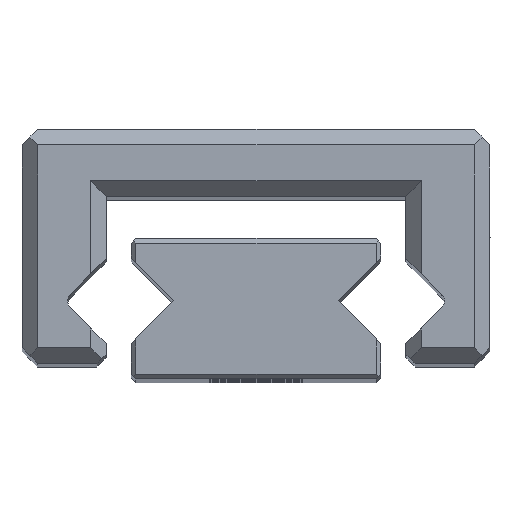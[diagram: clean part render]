
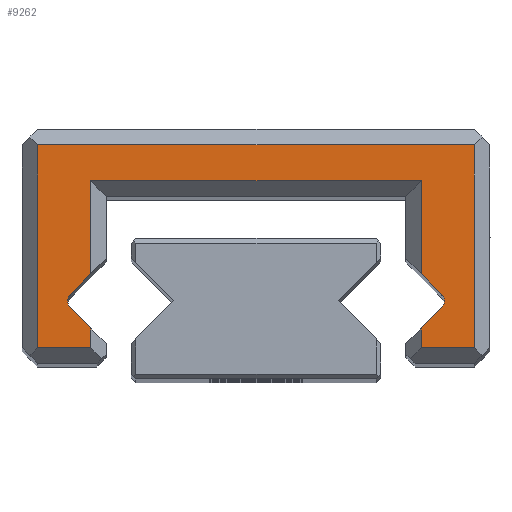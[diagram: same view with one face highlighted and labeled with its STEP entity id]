
A CAD part, top view. The second image highlights one B-rep face of the part: STEP entity #9262.
In plain terms, the highlighted planar face has unit normal (0, 0, 1).
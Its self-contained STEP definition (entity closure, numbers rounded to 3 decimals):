
#968 = VERTEX_POINT ( 'NONE', #5697 ) ;
#1019 = VERTEX_POINT ( 'NONE', #4120 ) ;
#1032 = VERTEX_POINT ( 'NONE', #4133 ) ;
#1033 = VERTEX_POINT ( 'NONE', #4134 ) ;
#1084 = VERTEX_POINT ( 'NONE', #4185 ) ;
#1126 = VERTEX_POINT ( 'NONE', #4227 ) ;
#1128 = VERTEX_POINT ( 'NONE', #4229 ) ;
#1203 = VERTEX_POINT ( 'NONE', #4304 ) ;
#1246 = VERTEX_POINT ( 'NONE', #4347 ) ;
#1289 = VERTEX_POINT ( 'NONE', #12167 ) ;
#1291 = VERTEX_POINT ( 'NONE', #12169 ) ;
#1748 = EDGE_CURVE ( 'NONE', #1019, #1128, #12265, .T. ) ;
#1756 = EDGE_CURVE ( 'NONE', #10087, #10006, #5362, .T. ) ;
#1780 = EDGE_CURVE ( 'NONE', #1084, #9954, #12371, .T. ) ;
#1788 = EDGE_CURVE ( 'NONE', #1291, #968, #12410, .T. ) ;
#1862 = EDGE_CURVE ( 'NONE', #1128, #1084, #5239, .T. ) ;
#1867 = EDGE_CURVE ( 'NONE', #10017, #10087, #10395, .T. ) ;
#2303 = ORIENTED_EDGE ( 'NONE', *, *, #10836, .T. ) ;
#2317 = ORIENTED_EDGE ( 'NONE', *, *, #1867, .T. ) ;
#2325 = ORIENTED_EDGE ( 'NONE', *, *, #10771, .T. ) ;
#2351 = ORIENTED_EDGE ( 'NONE', *, *, #10772, .T. ) ;
#2356 = ORIENTED_EDGE ( 'NONE', *, *, #10767, .T. ) ;
#2360 = ORIENTED_EDGE ( 'NONE', *, *, #10766, .T. ) ;
#2365 = ORIENTED_EDGE ( 'NONE', *, *, #1748, .T. ) ;
#2390 = ORIENTED_EDGE ( 'NONE', *, *, #10768, .T. ) ;
#2411 = ORIENTED_EDGE ( 'NONE', *, *, #10775, .T. ) ;
#2488 = ORIENTED_EDGE ( 'NONE', *, *, #10770, .T. ) ;
#2504 = ORIENTED_EDGE ( 'NONE', *, *, #1780, .T. ) ;
#2508 = ORIENTED_EDGE ( 'NONE', *, *, #10774, .T. ) ;
#2510 = ORIENTED_EDGE ( 'NONE', *, *, #1862, .T. ) ;
#2519 = ORIENTED_EDGE ( 'NONE', *, *, #1756, .T. ) ;
#2527 = ORIENTED_EDGE ( 'NONE', *, *, #10769, .T. ) ;
#2533 = ORIENTED_EDGE ( 'NONE', *, *, #10773, .T. ) ;
#2847 = EDGE_LOOP ( 'NONE', ( #2504, #2411, #2508, #2533, #2351, #2325, #2488, #2527, #2317, #2519, #2303, #13017, #2390, #2356, #2360, #2365, #2510 ) ) ;
#3797 = VECTOR ( 'NONE', #6288, 1000. ) ;
#3799 = VECTOR ( 'NONE', #6291, 1000. ) ;
#3800 = VECTOR ( 'NONE', #6294, 1000. ) ;
#3801 = VECTOR ( 'NONE', #6297, 1000. ) ;
#3802 = VECTOR ( 'NONE', #6300, 1000. ) ;
#3803 = VECTOR ( 'NONE', #6303, 1000. ) ;
#3804 = VECTOR ( 'NONE', #6306, 1000. ) ;
#3805 = VECTOR ( 'NONE', #6309, 1000. ) ;
#3806 = VECTOR ( 'NONE', #6312, 1000. ) ;
#3807 = VECTOR ( 'NONE', #6315, 1000. ) ;
#3854 = CIRCLE ( 'NONE', #3856, 0.3 ) ;
#3856 = AXIS2_PLACEMENT_3D ( 'NONE', #13495, #13496, #13497 ) ;
#4120 = CARTESIAN_POINT ( 'NONE',  ( 5.3, 2.868, 35. ) ) ;
#4133 = CARTESIAN_POINT ( 'NONE',  ( 5.3, 0.5, 35. ) ) ;
#4134 = CARTESIAN_POINT ( 'NONE',  ( -7., 7., 35. ) ) ;
#4185 = CARTESIAN_POINT ( 'NONE',  ( 5.953, 1.788, 35. ) ) ;
#4227 = CARTESIAN_POINT ( 'NONE',  ( 5.3, 5.85, 35. ) ) ;
#4229 = CARTESIAN_POINT ( 'NONE',  ( 5.953, 2.212, 35. ) ) ;
#4304 = CARTESIAN_POINT ( 'NONE',  ( -5.3, 0.5, 35. ) ) ;
#4347 = CARTESIAN_POINT ( 'NONE',  ( 7., 7., 35. ) ) ;
#4461 = CARTESIAN_POINT ( 'NONE',  ( -5.74, 2., 35. ) ) ;
#4464 = FACE_OUTER_BOUND ( 'NONE', #2847, .T. ) ;
#4465 = PLANE ( 'NONE',  #9515 ) ;
#4467 = DIRECTION ( 'NONE',  ( 0., 0., 1. ) ) ;
#4468 = DIRECTION ( 'NONE',  ( 1., 0., 0. ) ) ;
#5051 = VECTOR ( 'NONE', #12294, 1000. ) ;
#5052 = AXIS2_PLACEMENT_3D ( 'NONE', #12316, #12317, #12318 ) ;
#5232 = VECTOR ( 'NONE', #10412, 1000. ) ;
#5236 = AXIS2_PLACEMENT_3D ( 'NONE', #10397, #10398, #10399 ) ;
#5239 = CIRCLE ( 'NONE', #5236, 0.3 ) ;
#5321 = VECTOR ( 'NONE', #11872, 1000. ) ;
#5338 = VECTOR ( 'NONE', #12388, 1000. ) ;
#5362 = CIRCLE ( 'NONE', #5052, 0.3 ) ;
#5697 = CARTESIAN_POINT ( 'NONE',  ( -5.3, 2.868, 35. ) ) ;
#5744 = VERTEX_POINT ( 'NONE', #7129 ) ;
#6279 = LINE ( 'NONE', #6287, #3797 ) ;
#6287 = CARTESIAN_POINT ( 'NONE',  ( 5.3, 3.37, 35. ) ) ;
#6288 = DIRECTION ( 'NONE',  ( 0., -1., 0. ) ) ;
#6289 = LINE ( 'NONE', #6290, #3799 ) ;
#6290 = CARTESIAN_POINT ( 'NONE',  ( 4.8, 5.85, 35. ) ) ;
#6291 = DIRECTION ( 'NONE',  ( 1., 0., 0. ) ) ;
#6292 = LINE ( 'NONE', #6293, #3800 ) ;
#6293 = CARTESIAN_POINT ( 'NONE',  ( -5.3, 5.35, 35. ) ) ;
#6294 = DIRECTION ( 'NONE',  ( 0., 1., 0. ) ) ;
#6295 = LINE ( 'NONE', #6296, #3801 ) ;
#6296 = CARTESIAN_POINT ( 'NONE',  ( -5.3, 0.63, 35. ) ) ;
#6297 = DIRECTION ( 'NONE',  ( 0., 1., 0. ) ) ;
#6298 = LINE ( 'NONE', #6299, #3802 ) ;
#6299 = CARTESIAN_POINT ( 'NONE',  ( -5.1, 0.5, 35. ) ) ;
#6300 = DIRECTION ( 'NONE',  ( 1., 0., 0. ) ) ;
#6301 = LINE ( 'NONE', #6302, #3803 ) ;
#6302 = CARTESIAN_POINT ( 'NONE',  ( -7., 0.5, 35. ) ) ;
#6303 = DIRECTION ( 'NONE',  ( 0., -1., 0. ) ) ;
#6304 = LINE ( 'NONE', #6305, #3804 ) ;
#6305 = CARTESIAN_POINT ( 'NONE',  ( -7., 7., 35. ) ) ;
#6306 = DIRECTION ( 'NONE',  ( -1., 0., 0. ) ) ;
#6307 = LINE ( 'NONE', #6308, #3805 ) ;
#6308 = CARTESIAN_POINT ( 'NONE',  ( 7., 7., 35. ) ) ;
#6309 = DIRECTION ( 'NONE',  ( 0., 1., 0. ) ) ;
#6310 = LINE ( 'NONE', #6311, #3806 ) ;
#6311 = CARTESIAN_POINT ( 'NONE',  ( 7., 0.5, 35. ) ) ;
#6312 = DIRECTION ( 'NONE',  ( 1., 0., 0. ) ) ;
#6313 = LINE ( 'NONE', #6314, #3807 ) ;
#6314 = CARTESIAN_POINT ( 'NONE',  ( 5.3, 0.3, 35. ) ) ;
#6315 = DIRECTION ( 'NONE',  ( 0., -1., 0. ) ) ;
#7129 = CARTESIAN_POINT ( 'NONE',  ( 7., 0.5, 35. ) ) ;
#8150 = CARTESIAN_POINT ( 'NONE',  ( -7., 0.5, 35. ) ) ;
#8151 = CARTESIAN_POINT ( 'NONE',  ( 5.3, 1.132, 35. ) ) ;
#8203 = CARTESIAN_POINT ( 'NONE',  ( -6.04, 2., 35. ) ) ;
#8214 = CARTESIAN_POINT ( 'NONE',  ( -5.3, 1.132, 35. ) ) ;
#8284 = CARTESIAN_POINT ( 'NONE',  ( -5.953, 1.788, 35. ) ) ;
#9262 = ADVANCED_FACE ( 'NONE', ( #4464 ), #4465, .T. ) ;
#9515 = AXIS2_PLACEMENT_3D ( 'NONE', #4461, #4467, #4468 ) ;
#9953 = VERTEX_POINT ( 'NONE', #8150 ) ;
#9954 = VERTEX_POINT ( 'NONE', #8151 ) ;
#10006 = VERTEX_POINT ( 'NONE', #8203 ) ;
#10017 = VERTEX_POINT ( 'NONE', #8214 ) ;
#10087 = VERTEX_POINT ( 'NONE', #8284 ) ;
#10395 = LINE ( 'NONE', #10396, #5232 ) ;
#10396 = CARTESIAN_POINT ( 'NONE',  ( -4.8, 0.63, 35. ) ) ;
#10397 = CARTESIAN_POINT ( 'NONE',  ( 5.74, 2., 35. ) ) ;
#10398 = DIRECTION ( 'NONE',  ( 0., 0., -1. ) ) ;
#10399 = DIRECTION ( 'NONE',  ( -1., 0., 0. ) ) ;
#10412 = DIRECTION ( 'NONE',  ( -0.705, 0.709, 0. ) ) ;
#10766 = EDGE_CURVE ( 'NONE', #1126, #1019, #6279, .T. ) ;
#10767 = EDGE_CURVE ( 'NONE', #1289, #1126, #6289, .T. ) ;
#10768 = EDGE_CURVE ( 'NONE', #968, #1289, #6292, .T. ) ;
#10769 = EDGE_CURVE ( 'NONE', #1203, #10017, #6295, .T. ) ;
#10770 = EDGE_CURVE ( 'NONE', #9953, #1203, #6298, .T. ) ;
#10771 = EDGE_CURVE ( 'NONE', #1033, #9953, #6301, .T. ) ;
#10772 = EDGE_CURVE ( 'NONE', #1246, #1033, #6304, .T. ) ;
#10773 = EDGE_CURVE ( 'NONE', #5744, #1246, #6307, .T. ) ;
#10774 = EDGE_CURVE ( 'NONE', #1032, #5744, #6310, .T. ) ;
#10775 = EDGE_CURVE ( 'NONE', #9954, #1032, #6313, .T. ) ;
#10836 = EDGE_CURVE ( 'NONE', #10006, #1291, #3854, .T. ) ;
#11871 = CARTESIAN_POINT ( 'NONE',  ( -5.953, 2.212, 35. ) ) ;
#11872 = DIRECTION ( 'NONE',  ( 0.705, 0.709, 0. ) ) ;
#12167 = CARTESIAN_POINT ( 'NONE',  ( -5.3, 5.85, 35. ) ) ;
#12169 = CARTESIAN_POINT ( 'NONE',  ( -5.953, 2.212, 35. ) ) ;
#12265 = LINE ( 'NONE', #12292, #5051 ) ;
#12292 = CARTESIAN_POINT ( 'NONE',  ( 5.953, 2.212, 35. ) ) ;
#12294 = DIRECTION ( 'NONE',  ( 0.705, -0.709, 0. ) ) ;
#12316 = CARTESIAN_POINT ( 'NONE',  ( -5.74, 2., 35. ) ) ;
#12317 = DIRECTION ( 'NONE',  ( 0., 0., -1. ) ) ;
#12318 = DIRECTION ( 'NONE',  ( 1., 0., 0. ) ) ;
#12371 = LINE ( 'NONE', #12387, #5338 ) ;
#12387 = CARTESIAN_POINT ( 'NONE',  ( 4.8, 0.63, 35. ) ) ;
#12388 = DIRECTION ( 'NONE',  ( -0.705, -0.709, 0. ) ) ;
#12410 = LINE ( 'NONE', #11871, #5321 ) ;
#13017 = ORIENTED_EDGE ( 'NONE', *, *, #1788, .T. ) ;
#13495 = CARTESIAN_POINT ( 'NONE',  ( -5.74, 2., 35. ) ) ;
#13496 = DIRECTION ( 'NONE',  ( 0., 0., -1. ) ) ;
#13497 = DIRECTION ( 'NONE',  ( 1., 0., 0. ) ) ;
